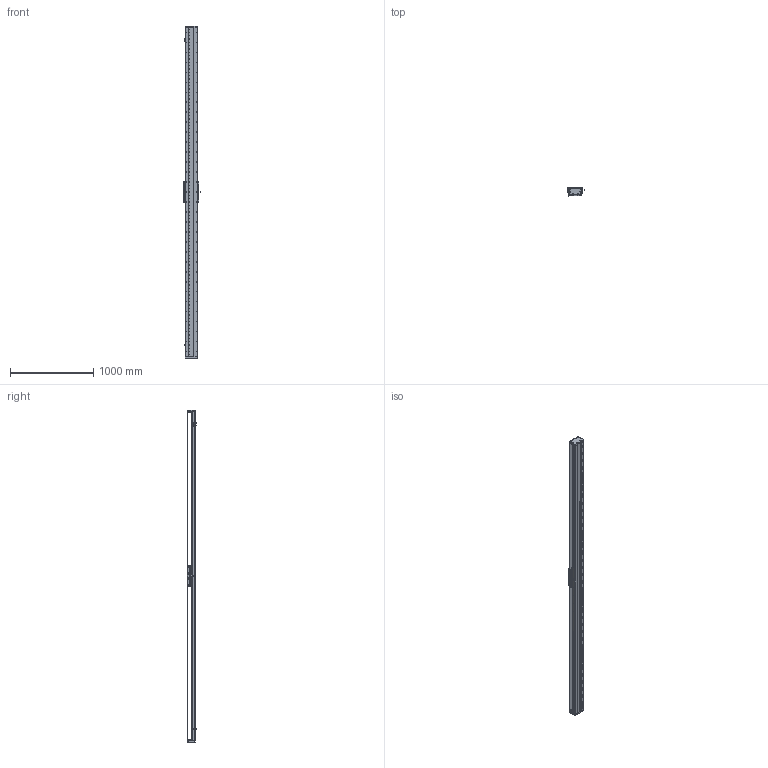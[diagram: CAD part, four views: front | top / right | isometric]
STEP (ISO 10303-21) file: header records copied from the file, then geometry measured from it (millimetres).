
FILE_DESCRIPTION (( 'STEP AP203' ), '1' );
FILE_NAME ('DA-C145-C3-T3660-C010-0.2 眻盄萇儂.STEP', '2025-08-14T01:40:08', ( '' ), ( '' ), 'SwSTEP 2.0', 'SolidWorks 2019', '' );
FILE_SCHEMA (( 'CONFIG_CONTROL_DESIGN' ));
Length unit declared in the file: millimetre
Products named in the file (32): 复件 纯铜油杯 6x6mm^CU145-W 滚珠滑台; TAY01-M8; 复件 DA145-C3-YB-B-00 压板B^CU145-W 滚珠滑台; 葩璃 DA95-GT-T-00^IU-CU145-L 菁釱絳寢; 葩璃 DA145-C3-DP-A-00 菜えA^CU145-W 幗紩賑怢; 葩璃 鞠褒情蹟譫 M3^DA-C145-C3-T-C010-0.2; 复件 DA95-DB-00  挡板^CU145-W 滚珠滑台; 复件 DA95-HK-GT-00 滑块钢轨^CU145-W-00 一体化滑动台板; 葩璃 PM-T45^DA-C145-C3-T-C010-0.2; 66245-CU145-HT-W-00 賑雄怢啣(3D芞祧)(00); 复件 DA145-C3-YB-A-00 压板A^CU145-W 滚珠滑台; 复件 DA145-DG 钢带端盖^复件 CU145 钢带组件_DA-C145-C3-T-C010-0.2; IU-CU145-L-00 菁釱(L3960); 复件 DA95-MFP-01 密封片^CU145-W 滚珠滑台; 葩璃 CU145 詩湍郪璃^DA-C145-C3-T-C010-0.2; 葩璃 DMA-010-0.2 黍杅芛^DA-C145-C3-T-C010-0.2; 葩璃 XD-U-02L 棠掑喜^DA-C145-C3-T-C010-0.2; 葩璃 CKMA01-W060-TRL^DA-C145-C3-T-C010-0.2; 葩璃 CKM03-W060-C1C2-TP-0.2^DA-C145-C3-T-C010-0.2; 复件 DA145 钢带^复件 CU145 钢带组件_DA-C145-C3-T-C010-0.2; 复件 DA145-C3-DK-00 挡块^CU145-W 滚珠滑台; 葩璃 DA95-HXJ-00 遣喳砎蝶^DA-C145-C3-T-C010-0.2; 复件 DA146 钢带垫块^复件 CU145 钢带组件_DA-C145-C3-T-C010-0.2; 复件 DA145-GYP-00 光电感应片^DA-C145-C3-T-C010-0.2; 复件 内六角平端紧定螺钉 GB.T77-2000 M5×10^CU145-W 滚珠滑台; 复件 半圆头内六角螺钉 M3×6^CU145-W 滚珠滑台; DA-C145-C3-T3660-C010-0.2 眻盄萇儂; IU-CU145-L 菁釱絳寢; 葩璃 DA145-C3-DP-B-00 菜えB^CU145-W 幗紩賑怢; 复件 DA146 钢带拉块^复件 CU145 钢带组件_DA-C145-C3-T-C010-0.2; CU145-W 幗紩賑怢; CU145-W-00 珨极趙賑雄怢啣
Assembly tree (103 placements, depth 4):
  DA-C145-C3-T3660-C010-0.2 眻盄萇儂
    IU-CU145-L 菁釱絳寢
      IU-CU145-L-00 菁釱(L3960)
      葩璃 DA95-GT-T-00^IU-CU145-L 菁釱絳寢  x4
    葩璃 CU145 詩湍郪璃^DA-C145-C3-T-C010-0.2
      复件 DA145-DG 钢带端盖^复件 CU145 钢带组件_DA-C145-C3-T-C010-0.2  x2
      复件 DA146 钢带拉块^复件 CU145 钢带组件_DA-C145-C3-T-C010-0.2  x2
      复件 DA146 钢带垫块^复件 CU145 钢带组件_DA-C145-C3-T-C010-0.2  x2
      复件 DA145 钢带^复件 CU145 钢带组件_DA-C145-C3-T-C010-0.2
    CU145-W 幗紩賑怢
      CU145-W-00 珨极趙賑雄怢啣
        66245-CU145-HT-W-00 賑雄怢啣(3D芞祧)(00)
        复件 DA95-HK-GT-00 滑块钢轨^CU145-W-00 一体化滑动台板  x8
      复件 DA95-MFP-01 密封片^CU145-W 滚珠滑台  x8
      复件 DA95-DB-00  挡板^CU145-W 滚珠滑台  x8
      复件 内六角平端紧定螺钉 GB.T77-2000 M5×10^CU145-W 滚珠滑台  x4
      复件 纯铜油杯 6x6mm^CU145-W 滚珠滑台  x4
      复件 半圆头内六角螺钉 M3×6^CU145-W 滚珠滑台  x16
      复件 DA145-C3-DK-00 挡块^CU145-W 滚珠滑台  x4
      葩璃 DA145-C3-DP-B-00 菜えB^CU145-W 幗紩賑怢  x2
      复件 DA145-C3-YB-B-00 压板B^CU145-W 滚珠滑台  x2
      葩璃 DA145-C3-DP-A-00 菜えA^CU145-W 幗紩賑怢  x3
      复件 DA145-C3-YB-A-00 压板A^CU145-W 滚珠滑台  x3
      TAY01-M8  x4
    葩璃 CKMA01-W060-TRL^DA-C145-C3-T-C010-0.2
    葩璃 PM-T45^DA-C145-C3-T-C010-0.2  x3
    葩璃 XD-U-02L 棠掑喜^DA-C145-C3-T-C010-0.2
    葩璃 DA95-HXJ-00 遣喳砎蝶^DA-C145-C3-T-C010-0.2  x4
    复件 DA145-GYP-00 光电感应片^DA-C145-C3-T-C010-0.2
    葩璃 DMA-010-0.2 黍杅芛^DA-C145-C3-T-C010-0.2
    葩璃 CKM03-W060-C1C2-TP-0.2^DA-C145-C3-T-C010-0.2
    葩璃 鞠褒情蹟譫 M3^DA-C145-C3-T-C010-0.2  x8
Bounding box: 203.5 x 108.45 x 3996 mm (x, y, z)
Volume: 17671660.9 mm3; surface area: 6055887.9 mm2
Topology: 99 solids, 131 shells, 5186 faces, 15518 edges, 9810 vertices
Faces by surface type: cylinder 2800, plane 1618, cone 690, torus 74, sphere 4
Entity records: 160288 total; most frequent: CARTESIAN_POINT 51648, ORIENTED_EDGE 22556, DIRECTION 20653, EDGE_CURVE 11278, AXIS2_PLACEMENT_3D 7790, VERTEX_POINT 7349, LINE 5073, VECTOR 5073
